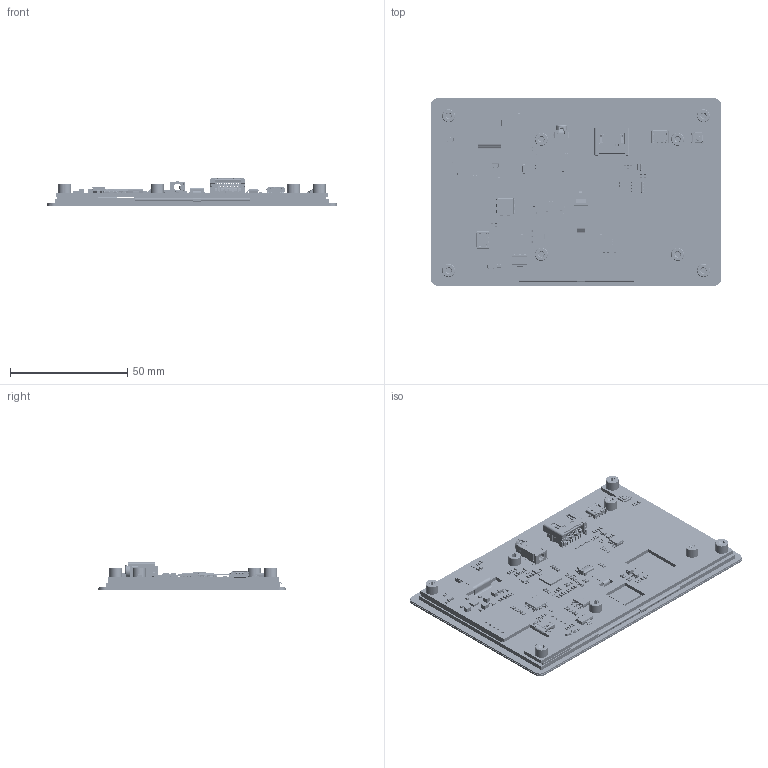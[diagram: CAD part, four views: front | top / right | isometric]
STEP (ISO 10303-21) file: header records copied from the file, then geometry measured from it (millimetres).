
FILE_DESCRIPTION((''),'2;1');
FILE_NAME('5INCH-HDMI-AMOLED_ASM','2024-05-28T10:53:26',('xiaojisheng'),(''),'CREO PARAMETRIC BY PTC INC, 2021063','CREO PARAMETRIC BY PTC INC, 2021063','');
FILE_SCHEMA(('CONFIG_CONTROL_DESIGN','SHAPE_APPEARANCE_LAYERS_GROUPS'));
Products named in the file (66): _AUTOSAVE-HL2023_PCB; COMPOUND-707; USER_LIBRARY-10118194_ASM; SOLID-72867; DF40C-40DS_ASM; SOLID-143955; BGA81-2_ASM; COMPOUND-160211; 47151-0001_ASM; COMPOUND-252475_1; COMPOUND-252475_2; COMPOUND-252475_ASM; CUI_DEVICES_SJ2-35894D-SMT-TR_ASM; COMPOUND-297491_1; COMPOUND-297491_2; COMPOUND-297491_3; COMPOUND-297491_ASM; HIROSE_FH12-6S-0_5SH_1X06-1MP_P_ASM; COMPOUND-307721; FH12-6S-0_5SH_ASM; SOLID-333792; C_0603_1608METRIC_ASM; SOLID-335826; R_0603_1608METRIC_ASM; SOLID-337760; SOT-23_ASM; SOLID-342641; SOT-363_SC-70-6_ASM; COMPOUND-350437_1; COMPOUND-350437_2; COMPOUND-350437_3; COMPOUND-350437_4; COMPOUND-350437_5; COMPOUND-350437_6; COMPOUND-350437_7; COMPOUND-350437_8; COMPOUND-350437_ASM; USER_LIBRARY-LTST-C190TBKT_ASM; SOLID-354613; USER_LIBRARY-4X4_SMD_SWITCH_ASM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
Assembly tree (202 placements, depth 6):
  5INCH-HDMI-AMOLED_ASM
    5INCH-HDMI-AMOLED-PCBA_ASM
      HL2023_20240517_1_ASM
        _AUTOSAVE-HL2023_PCB
        USER_LIBRARY-10118194_ASM  x2
          COMPOUND-707
        DF40C-40DS_ASM
          SOLID-72867
        BGA81-2_ASM
          SOLID-143955
        47151-0001_ASM
          COMPOUND-160211
        CUI_DEVICES_SJ2-35894D-SMT-TR_ASM
          COMPOUND-252475_ASM
            COMPOUND-252475_1
            COMPOUND-252475_2
        HIROSE_FH12-6S-0_5SH_1X06-1MP_P_ASM
          COMPOUND-297491_ASM
            COMPOUND-297491_1
            COMPOUND-297491_2
            COMPOUND-297491_3
        FH12-6S-0_5SH_ASM
          COMPOUND-307721
        C_0603_1608METRIC_ASM  x55
          SOLID-333792
        R_0603_1608METRIC_ASM  x61
          SOLID-335826
        SOT-23_ASM  x4
          SOLID-337760
        SOT-363_SC-70-6_ASM
          SOLID-342641
        USER_LIBRARY-LTST-C190TBKT_ASM
          COMPOUND-350437_ASM
            COMPOUND-350437_1
            COMPOUND-350437_2
            COMPOUND-350437_3
            COMPOUND-350437_4
            COMPOUND-350437_5
            COMPOUND-350437_6
            COMPOUND-350437_7
            COMPOUND-350437_8
        USER_LIBRARY-4X4_SMD_SWITCH_ASM
          SOLID-354613
        SOIC-8_3_9X4_9MM_P1_27MM_ASM
          SOLID-368952
        LQFP-48_7X7MM_P0_5MM_ASM
          SOLID-379913
        SOT-23-5_ASM  x2
          SOLID-453041
        L_1008_2520METRIC_ASM  x5
          SOLID-460439
        USER_LIBRARY-INDM2520X190N_ASM  x5
          SOLID-462463
        DFN2510_ASM  x3
          SOLID-463801
        CRYSTAL_SMD_3225-4PIN_3_2X2_5MM_ASM
          SOLID-469161
        TSSOP-10_3X3MM_P0_5MM_ASM
          SOLID-471163
        SOT-223_ASM  x2
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Bounding box: 123.54 x 79.92 x 11.65 mm (x, y, z)
Volume: 41267.7 mm3; surface area: 54228.7 mm2
Topology: 174 solids, 1444 shells, 11033 faces, 33862 edges, 24712 vertices
Faces by surface type: plane 7560, cylinder 3101, bspline 242, cone 86, extrusion 20, sphere 14, torus 10
Entity records: 267885 total; most frequent: CARTESIAN_POINT 52384, DIRECTION 34887, ORIENTED_EDGE 34826, EDGE_CURVE 19190, VECTOR 14837, LINE 14827, VERTEX_POINT 13770, PRESENTATION_STYLE_ASSIGNMENT 10223
